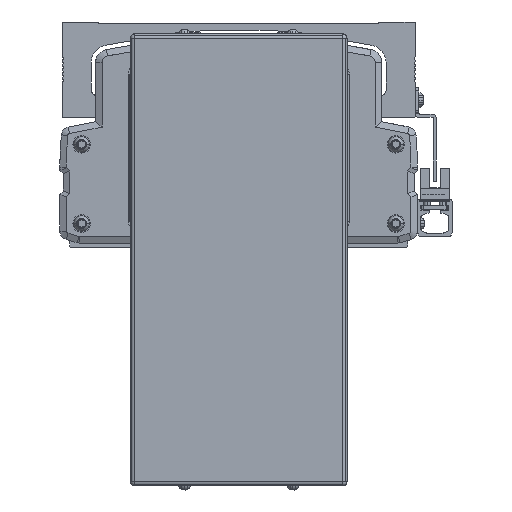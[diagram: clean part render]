
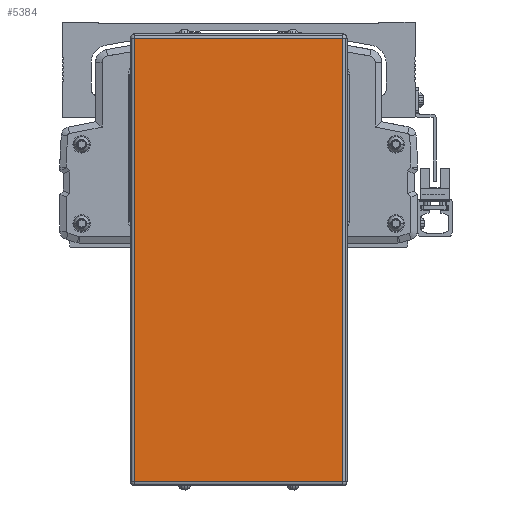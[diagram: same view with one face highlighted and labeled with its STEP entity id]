
A CAD part, front view. The second image highlights one B-rep face of the part: STEP entity #5384.
In plain terms, the highlighted planar face has unit normal (0, -1, 0).
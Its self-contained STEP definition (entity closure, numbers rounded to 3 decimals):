
#5384=ADVANCED_FACE('',(#12100),#12101,.T.);
#12100=FACE_OUTER_BOUND('',#22175,.T.);
#12101=PLANE('',#22176);
#22175=EDGE_LOOP('',(#37561,#37562,#37563,#37564));
#22176=AXIS2_PLACEMENT_3D('',#37565,#37566,#37567);
#37561=ORIENTED_EDGE('',*,*,#57227,.F.);
#37562=ORIENTED_EDGE('',*,*,#54040,.F.);
#37563=ORIENTED_EDGE('',*,*,#57228,.F.);
#37564=ORIENTED_EDGE('',*,*,#57229,.F.);
#37565=CARTESIAN_POINT('',(-600.,52.222,-57.8));
#37566=DIRECTION('',(0.,-1.0,0.));
#37567=DIRECTION('',(0.,0.,-1.0));
#54040=EDGE_CURVE('',#65379,#65381,#65382,.T.);
#57227=EDGE_CURVE('',#65381,#70332,#70333,.T.);
#57228=EDGE_CURVE('',#70334,#65379,#70335,.T.);
#57229=EDGE_CURVE('',#70332,#70334,#70336,.T.);
#65379=VERTEX_POINT('',#81471);
#65381=VERTEX_POINT('',#81473);
#65382=LINE('',#81474,#81475);
#70332=VERTEX_POINT('',#88786);
#70333=LINE('',#88787,#88788);
#70334=VERTEX_POINT('',#88789);
#70335=LINE('',#88790,#88791);
#70336=LINE('',#88792,#88793);
#81471=CARTESIAN_POINT('',(-648.,52.222,-160.1));
#81473=CARTESIAN_POINT('',(-648.,52.222,44.5));
#81474=CARTESIAN_POINT('',(-648.,52.222,-57.8));
#81475=VECTOR('',#98610,10.0);
#88786=CARTESIAN_POINT('',(-552.,52.222,44.5));
#88787=CARTESIAN_POINT('',(-600.,52.222,44.5));
#88788=VECTOR('',#102579,10.0);
#88789=CARTESIAN_POINT('',(-552.,52.222,-160.1));
#88790=CARTESIAN_POINT('',(-600.,52.222,-160.1));
#88791=VECTOR('',#102580,10.0);
#88792=CARTESIAN_POINT('',(-552.,52.222,-57.8));
#88793=VECTOR('',#102581,10.0);
#98610=DIRECTION('',(0.,0.,1.0));
#102579=DIRECTION('',(1.0,0.,0.));
#102580=DIRECTION('',(-1.0,0.,0.));
#102581=DIRECTION('',(0.,0.,-1.0));
